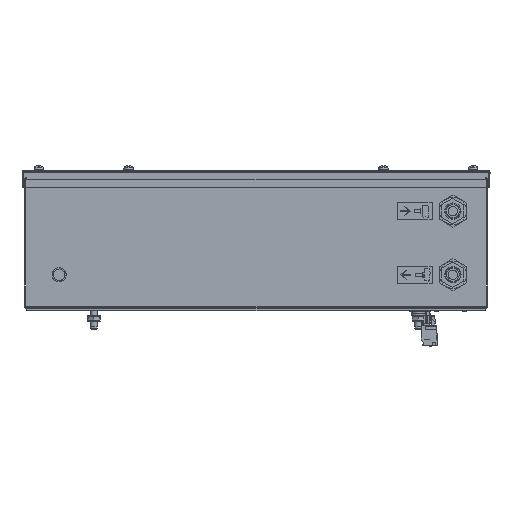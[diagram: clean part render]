
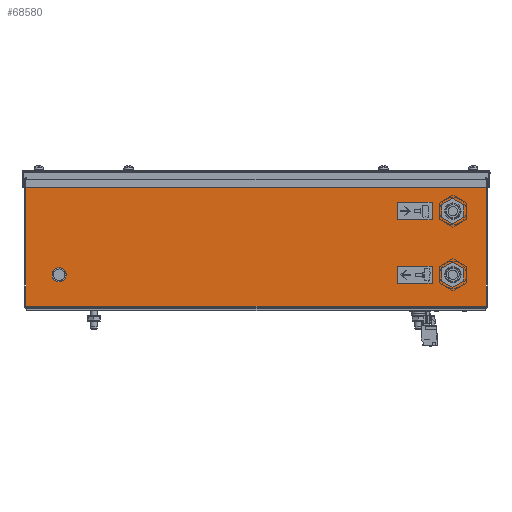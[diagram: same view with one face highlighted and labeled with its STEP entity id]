
A CAD part, front view. The second image highlights one B-rep face of the part: STEP entity #68580.
In plain terms, the highlighted planar face has unit normal (0, -1, 0).
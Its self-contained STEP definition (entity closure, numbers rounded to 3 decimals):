
#11694 = CARTESIAN_POINT ( 'NONE',  ( 170., -1., 20.25 ) ) ;
#11695 = DIRECTION ( 'NONE',  ( 0., 0., -1. ) ) ;
#11696 = DIRECTION ( 'NONE',  ( 0., -1., 0. ) ) ;
#11697 = AXIS2_PLACEMENT_3D ( 'NONE', #11703, #11696, #11695 ) ;
#11698 = CIRCLE ( 'NONE', #11697, 8.75 ) ;
#11703 = CARTESIAN_POINT ( 'NONE',  ( 170., -1., 29. ) ) ;
#11728 = CARTESIAN_POINT ( 'NONE',  ( 170., -1., 75.25 ) ) ;
#11729 = DIRECTION ( 'NONE',  ( 0., 0., -1. ) ) ;
#11730 = DIRECTION ( 'NONE',  ( 0., -1., 0. ) ) ;
#11731 = CARTESIAN_POINT ( 'NONE',  ( 170., -1., 84. ) ) ;
#11732 = AXIS2_PLACEMENT_3D ( 'NONE', #11731, #11730, #11729 ) ;
#11733 = CIRCLE ( 'NONE', #11732, 8.75 ) ;
#11823 = CARTESIAN_POINT ( 'NONE',  ( 170., -1., 37.75 ) ) ;
#11849 = DIRECTION ( 'NONE',  ( 0., -1., 0. ) ) ;
#11850 = CARTESIAN_POINT ( 'NONE',  ( -170., -1., 29. ) ) ;
#11851 = AXIS2_PLACEMENT_3D ( 'NONE', #11850, #11849, #11909 ) ;
#11852 = CIRCLE ( 'NONE', #11851, 6.1 ) ;
#11853 = CARTESIAN_POINT ( 'NONE',  ( -170., -1., 35.1 ) ) ;
#11886 = CARTESIAN_POINT ( 'NONE',  ( 170., -1., 92.75 ) ) ;
#11908 = CARTESIAN_POINT ( 'NONE',  ( -170., -1., 22.9 ) ) ;
#11909 = DIRECTION ( 'NONE',  ( 0., 0., -1. ) ) ;
#15486 = DIRECTION ( 'NONE',  ( 0., 0., -1. ) ) ;
#15488 = VECTOR ( 'NONE', #15486, 1000. ) ;
#15490 = CARTESIAN_POINT ( 'NONE',  ( 198.929, -1., 111. ) ) ;
#15494 = LINE ( 'NONE', #15490, #15488 ) ;
#15690 = CARTESIAN_POINT ( 'NONE',  ( 198.929, -1., 111. ) ) ;
#15872 = CARTESIAN_POINT ( 'NONE',  ( 198.929, -1., 2. ) ) ;
#15966 = DIRECTION ( 'NONE',  ( 0., 0., -1. ) ) ;
#15968 = DIRECTION ( 'NONE',  ( 0., 1., 0. ) ) ;
#15969 = CARTESIAN_POINT ( 'NONE',  ( 4939., -1., 111. ) ) ;
#15971 = AXIS2_PLACEMENT_3D ( 'NONE', #15969, #15968, #15966 ) ;
#15972 = PLANE ( 'NONE',  #15971 ) ;
#15976 = FACE_OUTER_BOUND ( 'NONE', #69585, .T. ) ;
#15977 = FACE_BOUND ( 'NONE', #69224, .T. ) ;
#15979 = FACE_BOUND ( 'NONE', #68574, .T. ) ;
#15981 = FACE_BOUND ( 'NONE', #68572, .T. ) ;
#15982 = DIRECTION ( 'NONE',  ( 0., 0., -1. ) ) ;
#15984 = DIRECTION ( 'NONE',  ( 0., -1., 0. ) ) ;
#15986 = CARTESIAN_POINT ( 'NONE',  ( -170., -1., 29. ) ) ;
#15987 = AXIS2_PLACEMENT_3D ( 'NONE', #15986, #15984, #15982 ) ;
#15989 = CIRCLE ( 'NONE', #15987, 6.1 ) ;
#16016 = DIRECTION ( 'NONE',  ( 0., 0., 1. ) ) ;
#16018 = VECTOR ( 'NONE', #16016, 1000. ) ;
#16019 = CARTESIAN_POINT ( 'NONE',  ( -198.929, -1., 111. ) ) ;
#16020 = LINE ( 'NONE', #16019, #16018 ) ;
#16022 = DIRECTION ( 'NONE',  ( 0., 0., -1. ) ) ;
#16023 = DIRECTION ( 'NONE',  ( 0., -1., 0. ) ) ;
#16024 = CARTESIAN_POINT ( 'NONE',  ( 170., -1., 84. ) ) ;
#16025 = AXIS2_PLACEMENT_3D ( 'NONE', #16024, #16023, #16022 ) ;
#16026 = CIRCLE ( 'NONE', #16025, 8.75 ) ;
#17009 = DIRECTION ( 'NONE',  ( 0., 0., -1. ) ) ;
#17010 = DIRECTION ( 'NONE',  ( 0., -1., 0. ) ) ;
#17011 = CARTESIAN_POINT ( 'NONE',  ( 170., -1., 29. ) ) ;
#17013 = AXIS2_PLACEMENT_3D ( 'NONE', #17011, #17010, #17009 ) ;
#17014 = CIRCLE ( 'NONE', #17013, 8.75 ) ;
#17235 = VECTOR ( 'NONE', #17367, 1000. ) ;
#17238 = CARTESIAN_POINT ( 'NONE',  ( 4939., -1., 2. ) ) ;
#17239 = LINE ( 'NONE', #17238, #17235 ) ;
#17365 = CARTESIAN_POINT ( 'NONE',  ( -198.929, -1., 111. ) ) ;
#17366 = CARTESIAN_POINT ( 'NONE',  ( -198.929, -1., 2. ) ) ;
#17367 = DIRECTION ( 'NONE',  ( -1., 0., 0. ) ) ;
#17507 = DIRECTION ( 'NONE',  ( -1., 0., 0. ) ) ;
#17508 = VECTOR ( 'NONE', #17507, 1000. ) ;
#17509 = CARTESIAN_POINT ( 'NONE',  ( 4939., -1., 111. ) ) ;
#17510 = LINE ( 'NONE', #17509, #17508 ) ;
#64668 = EDGE_CURVE ( 'NONE', #64739, #64669, #11698, .T. ) ;
#64669 = VERTEX_POINT ( 'NONE', #11694 ) ;
#64683 = EDGE_CURVE ( 'NONE', #64766, #64684, #11733, .T. ) ;
#64684 = VERTEX_POINT ( 'NONE', #11728 ) ;
#64739 = VERTEX_POINT ( 'NONE', #11823 ) ;
#64752 = VERTEX_POINT ( 'NONE', #11853 ) ;
#64754 = EDGE_CURVE ( 'NONE', #64752, #64755, #11852, .T. ) ;
#64755 = VERTEX_POINT ( 'NONE', #11908 ) ;
#64766 = VERTEX_POINT ( 'NONE', #11886 ) ;
#68511 = EDGE_CURVE ( 'NONE', #68557, #68566, #15494, .T. ) ;
#68557 = VERTEX_POINT ( 'NONE', #15690 ) ;
#68566 = VERTEX_POINT ( 'NONE', #15872 ) ;
#68572 = EDGE_LOOP ( 'NONE', ( #68581, #68575 ) ) ;
#68574 = EDGE_LOOP ( 'NONE', ( #68592, #69223 ) ) ;
#68575 = ORIENTED_EDGE ( 'NONE', *, *, #64754, .F. ) ;
#68579 = EDGE_CURVE ( 'NONE', #64755, #64752, #15989, .T. ) ;
#68580 = ADVANCED_FACE ( 'NONE', ( #15981, #15979, #15977, #15976 ), #15972, .F. ) ;
#68581 = ORIENTED_EDGE ( 'NONE', *, *, #68579, .F. ) ;
#68592 = ORIENTED_EDGE ( 'NONE', *, *, #68593, .F. ) ;
#68593 = EDGE_CURVE ( 'NONE', #64684, #64766, #16026, .T. ) ;
#68596 = EDGE_CURVE ( 'NONE', #69417, #69422, #16020, .T. ) ;
#69223 = ORIENTED_EDGE ( 'NONE', *, *, #64683, .F. ) ;
#69224 = EDGE_LOOP ( 'NONE', ( #69546, #69603 ) ) ;
#69230 = EDGE_CURVE ( 'NONE', #64669, #64739, #17014, .T. ) ;
#69415 = EDGE_CURVE ( 'NONE', #68566, #69417, #17239, .T. ) ;
#69417 = VERTEX_POINT ( 'NONE', #17366 ) ;
#69422 = VERTEX_POINT ( 'NONE', #17365 ) ;
#69546 = ORIENTED_EDGE ( 'NONE', *, *, #69230, .F. ) ;
#69581 = EDGE_CURVE ( 'NONE', #68557, #69422, #17510, .T. ) ;
#69585 = EDGE_LOOP ( 'NONE', ( #69598, #69594, #69593, #69595 ) ) ;
#69593 = ORIENTED_EDGE ( 'NONE', *, *, #68511, .F. ) ;
#69594 = ORIENTED_EDGE ( 'NONE', *, *, #69415, .F. ) ;
#69595 = ORIENTED_EDGE ( 'NONE', *, *, #69581, .T. ) ;
#69598 = ORIENTED_EDGE ( 'NONE', *, *, #68596, .F. ) ;
#69603 = ORIENTED_EDGE ( 'NONE', *, *, #64668, .F. ) ;
